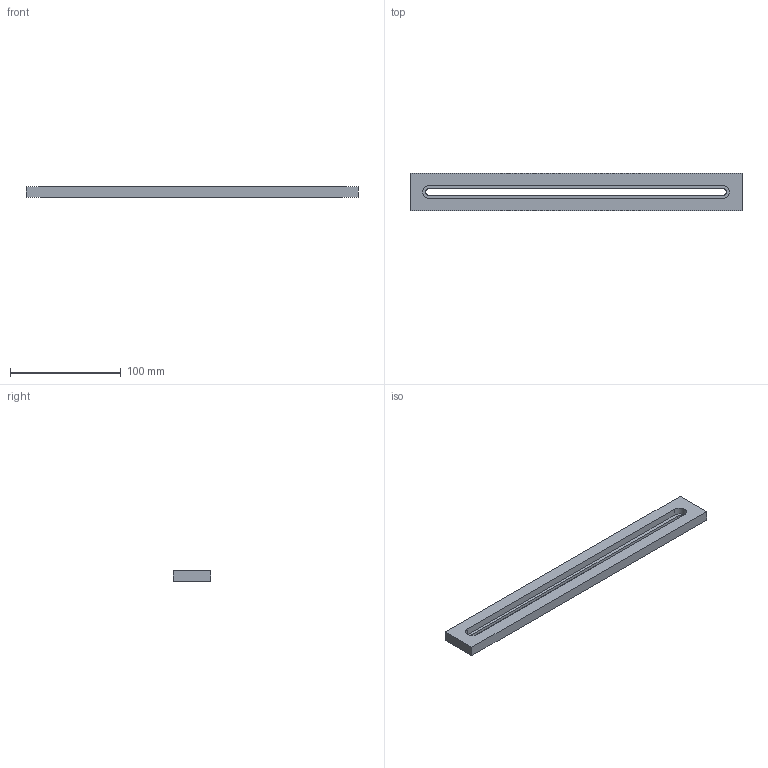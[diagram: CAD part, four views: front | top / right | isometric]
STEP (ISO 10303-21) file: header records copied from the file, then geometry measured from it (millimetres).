
FILE_DESCRIPTION(/* description */ (''),/* implementation_level */ '2;1');
FILE_NAME(/* name */ '2MP-30.stp',/* time_stamp */ '2025-08-22T13:34:49+03:00',/* author */ ('dsgn39'),/* organization */ (''),/* preprocessor_version */ 'ST-DEVELOPER v20',/* originating_system */ 'Autodesk Inventor 2025',/* authorisation */ '');
FILE_SCHEMA (('AUTOMOTIVE_DESIGN { 1 0 10303 214 3 1 1 }'));
Length unit declared in the file: millimetre
Products named in the file (1): 2MP-20.01
Bounding box: 300 x 34 x 9.3 mm (x, y, z)
Volume: 68539 mm3; surface area: 28332.3 mm2
Topology: 1 solids, 1 shells, 15 faces, 36 edges, 24 vertices
Faces by surface type: plane 11, cylinder 4
Entity records: 485 total; most frequent: DIRECTION 76, CARTESIAN_POINT 76, ORIENTED_EDGE 72, EDGE_CURVE 36, LINE 28, VECTOR 28, VERTEX_POINT 24, AXIS2_PLACEMENT_3D 24
